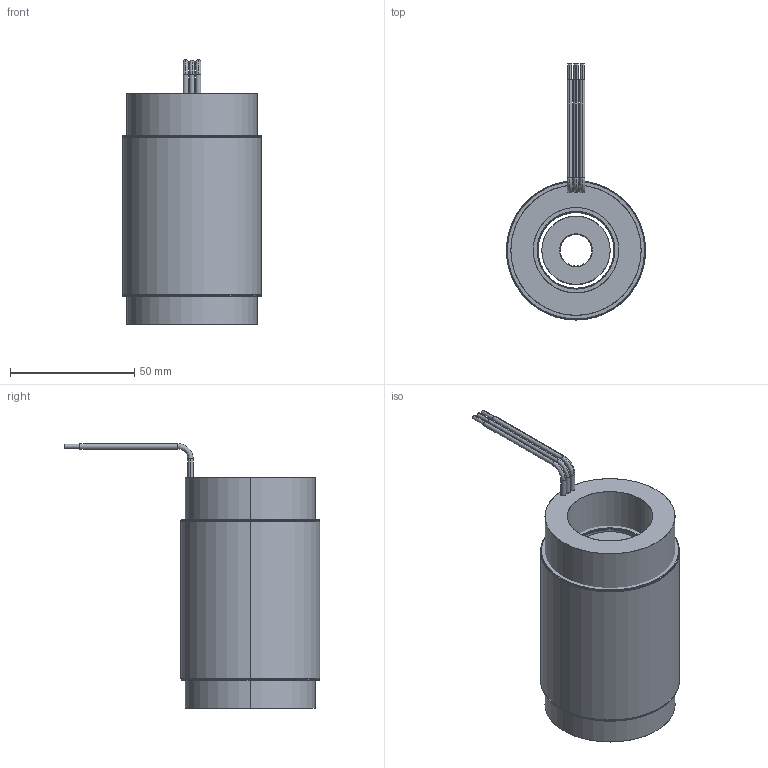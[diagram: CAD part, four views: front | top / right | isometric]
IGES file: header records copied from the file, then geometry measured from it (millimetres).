
Start section: SolidWorks IGES file using analytic representation for surfaces
Global section: file name: \\fs01.aveox.local\user documents\eng\My Documents\STANDARD STATOR ROTOR SETS\Standard rotor and stator set released\2.2 inch stator diameter\6100252-05.IGS; native system: SolidWorks 2016; preprocessor: SolidWorks 2016; author: eng; date: 191111.085801; units: millimetre
Bounding box: 55.85 x 102.72 x 106.3 mm (x, y, z)
Surface area: 72241.5 mm2 (no closed solid volume)
Topology: 0 solids, 0 shells, 84 faces, 2220 edges, 2220 vertices
Faces by surface type: revolution 50, bspline 34
